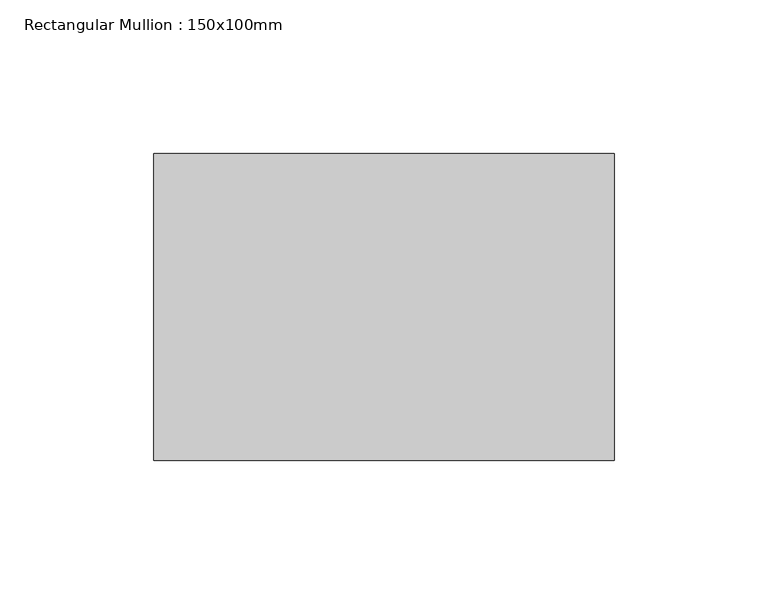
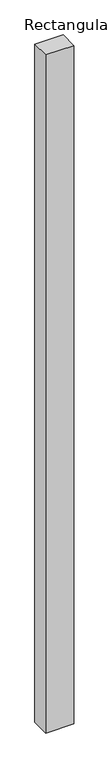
"""IFC4 building model written with IfcOpenShell, lengths in millimetres: member geometry, Rectangular Mullion : 150x100mm."""

import ifcopenshell
import ifcopenshell.guid

model = None  # the IFC model being written
_history = None  # IfcOwnerHistory: only IFC2X3 demands one
_inside = {}  # id of a spatial element -> (the spatial element, [elements in it])
_under = {}  # id of a project, library or spatial element -> (it, [spatial elements below it])
_declared = {}  # id of a project -> (the project, [libraries it declares])
_typed = {}  # id of a type object -> (the type object, [elements of that type])
_made_of = {}  # id of a material, layer set ... -> (it, [elements and type objects made of it])


def new_model(schema):
    """Start an empty IFC model of exactly this schema.

    Asked for "IFC4X3", IfcOpenShell would pick the latest addendum, in which some entities
    have other attributes; the version numbers below select the first issue.
    IFC2X3 requires an IfcOwnerHistory on every rooted entity: one is made here for all.
    """
    global model, _history
    if schema == "IFC4X3":
        model = ifcopenshell.file(schema_version=(4, 3, 0, 0))
    else:
        model = ifcopenshell.file(schema=schema)
    _inside.clear()
    _under.clear()
    _declared.clear()
    _typed.clear()
    _made_of.clear()
    _history = None
    if model.schema == "IFC2X3":
        org = make("IfcOrganization", Name="unknown")
        user = make(
            "IfcPersonAndOrganization",
            ThePerson=make("IfcPerson", FamilyName="unknown"),
            TheOrganization=org,
        )
        app = make(
            "IfcApplication",
            ApplicationDeveloper=org,
            Version="unknown",
            ApplicationFullName="unknown",
            ApplicationIdentifier="unknown",
        )
        _history = make(
            "IfcOwnerHistory",
            OwningUser=user,
            OwningApplication=app,
            ChangeAction="ADDED",
            CreationDate=0,
        )
    return model


def make(cls, **values):
    """One entity of the class cls with the attributes given. An attribute that is None is left unset."""
    return model.create_entity(
        cls, **{name: value for name, value in values.items() if value is not None}
    )


def rooted(cls, **values):
    """An entity with a GlobalId (a new one), such as an element, a storey or a relation."""
    return make(cls, GlobalId=ifcopenshell.guid.new(), OwnerHistory=_history, **values)


def si_unit(unit_type, name, prefix=None):
    """IfcSIUnit, for example si_unit("LENGTHUNIT", "METRE", prefix="MILLI")."""
    return make("IfcSIUnit", UnitType=unit_type, Prefix=prefix, Name=name)


def assignment(units):
    """IfcUnitAssignment: the units of a project."""
    return None if units is None else make("IfcUnitAssignment", Units=units)


def point(xyz):
    """IfcCartesianPoint."""
    return None if xyz is None else make("IfcCartesianPoint", Coordinates=xyz)


def direction(xyz):
    """IfcDirection."""
    return None if xyz is None else make("IfcDirection", DirectionRatios=xyz)


def frame(location, z_axis=None, x_axis=None):
    """IfcAxis2Placement3D, a coordinate frame: its origin and axes. An axis left out is left unset."""
    return make(
        "IfcAxis2Placement3D",
        Location=point(location),
        Axis=direction(z_axis),
        RefDirection=direction(x_axis),
    )


def origin():
    """The frame at (0, 0, 0) with its axes left unset."""
    return frame((0.0, 0.0, 0.0))


def place(relative_to, where):
    """IfcLocalPlacement: puts the frame where relative to a parent placement (None: the world)."""
    return make(
        "IfcLocalPlacement", PlacementRelTo=relative_to, RelativePlacement=where
    )


def context(
    kind, dimensions, precision=None, world=None, true_north=None, identifier=None
):
    """IfcGeometricRepresentationContext, for example the 3D "Model" context."""
    return make(
        "IfcGeometricRepresentationContext",
        ContextIdentifier=identifier,
        ContextType=kind,
        CoordinateSpaceDimension=dimensions,
        Precision=precision,
        WorldCoordinateSystem=world,
        TrueNorth=true_north,
    )


def project(units=None, contexts=None):
    """IfcProject with its units and contexts."""
    return rooted(
        "IfcProject",
        Name="project",
        RepresentationContexts=contexts,
        UnitsInContext=assignment(units),
    )


def spatial(cls, under=None, at=None, **own):
    """A site, building, storey or space (cls), placed at a placement, below another one or the project."""
    s = rooted(cls, ObjectPlacement=at, **own)
    if under is not None:
        _under.setdefault(under.id(), (under, []))[1].append(s)
    return s


def polyline(points):
    """IfcPolyline through the points."""
    return make("IfcPolyline", Points=[point(p) for p in points])


def outline(outer, holes=None, kind="AREA"):
    """IfcArbitraryClosedProfileDef: a profile drawn as a closed curve; with holes, ...WithVoids."""
    if holes is None:
        return make("IfcArbitraryClosedProfileDef", ProfileType=kind, OuterCurve=outer)
    return make(
        "IfcArbitraryProfileDefWithVoids",
        ProfileType=kind,
        OuterCurve=outer,
        InnerCurves=holes,
    )


def extrude(swept, where, along, depth):
    """IfcExtrudedAreaSolid: the profile swept, set in the frame where, extruded along a direction by depth."""
    return make(
        "IfcExtrudedAreaSolid",
        SweptArea=swept,
        Position=where,
        ExtrudedDirection=direction(along),
        Depth=depth,
    )


def shape(context_of_items, identifier, shape_type, items):
    """IfcShapeRepresentation: the items that make up one representation, for example the "Body"."""
    return make(
        "IfcShapeRepresentation",
        ContextOfItems=context_of_items,
        RepresentationIdentifier=identifier,
        RepresentationType=shape_type,
        Items=items,
    )


def source(mapping_origin, context_of_items, identifier, shape_type, items):
    """IfcRepresentationMap: a shape defined once, which mapped items show again and again."""
    return make(
        "IfcRepresentationMap",
        MappingOrigin=mapping_origin,
        MappedRepresentation=shape(context_of_items, identifier, shape_type, items),
    )


def transform(
    local_origin,
    x_axis=None,
    y_axis=None,
    z_axis=None,
    scale=None,
    scale2=None,
    scale3=None,
    uniform=True,
):
    """IfcCartesianTransformationOperator3D, or its non-uniform kind. x_axis, y_axis, z_axis: its Axis1, 2, 3."""
    if uniform:
        return make(
            "IfcCartesianTransformationOperator3D",
            Axis1=direction(x_axis),
            Axis2=direction(y_axis),
            LocalOrigin=point(local_origin),
            Scale=scale,
            Axis3=direction(z_axis),
        )
    return make(
        "IfcCartesianTransformationOperator3DnonUniform",
        Axis1=direction(x_axis),
        Axis2=direction(y_axis),
        LocalOrigin=point(local_origin),
        Scale=scale,
        Axis3=direction(z_axis),
        Scale2=scale2,
        Scale3=scale3,
    )


def mapped(mapping_source, mapping_target):
    """IfcMappedItem: shows the shape of a source again, moved by a transform."""
    return make(
        "IfcMappedItem", MappingSource=mapping_source, MappingTarget=mapping_target
    )


def made_of(thing, what):
    """Note that an element or type object is made of a material, layer set ...; save() writes the relation."""
    if what is not None:
        _made_of.setdefault(what.id(), (what, []))[1].append(thing)
    return thing


def element(
    cls,
    number,
    at=None,
    inside=None,
    cuts=None,
    type_object=None,
    material=None,
    context=None,
    identifier="Body",
    shape_type=None,
    held_by="IfcProductDefinitionShape",
    body=None,
    shapes=None,
    **own,
):
    """One element of the class cls, such as IfcWall. Its Tag is "e" and its number.

    at: its placement. inside: the storey or other place that contains it. cuts: it is an
    opening in that element (IfcRelVoidsElement). A single representation is given by context,
    identifier, shape_type and body (its items); several are given by shapes. held_by: the class
    of the entity that holds the representations. save() writes the other relations.
    """
    e = rooted(cls, Tag="e%d" % number, ObjectPlacement=at, **own)
    if body is not None:
        shapes = [shape(context, identifier, shape_type, body)]
    if shapes is not None:
        e.Representation = make(held_by, Representations=shapes)
    if inside is not None:
        _inside.setdefault(inside.id(), (inside, []))[1].append(e)
    if cuts is not None:
        rooted(
            "IfcRelVoidsElement", RelatingBuildingElement=cuts, RelatedOpeningElement=e
        )
    if type_object is not None:
        _typed.setdefault(type_object.id(), (type_object, []))[1].append(e)
    return made_of(e, material)


def aggregate(whole, parts):
    """IfcRelAggregates: a whole, such as a stair, and the parts it consists of."""
    return rooted("IfcRelAggregates", RelatingObject=whole, RelatedObjects=parts)


def save(model, path):
    """Write the relations noted so far, then the file.

    IfcRelAggregates (storeys below a building ...), IfcRelContainedInSpatialStructure (elements
    in a storey), IfcRelDefinesByType, IfcRelAssociatesMaterial and IfcRelDeclares: one each for
    every whole, place, type object, material and project.
    """
    for whole, parts in _under.values():
        aggregate(whole, parts)
    for where, things in _inside.values():
        rooted(
            "IfcRelContainedInSpatialStructure",
            RelatedElements=things,
            RelatingStructure=where,
        )
    for kind, things in _typed.values():
        rooted("IfcRelDefinesByType", RelatedObjects=things, RelatingType=kind)
    for what, things in _made_of.values():
        rooted("IfcRelAssociatesMaterial", RelatedObjects=things, RelatingMaterial=what)
    for by, libraries in _declared.values():
        rooted("IfcRelDeclares", RelatingContext=by, RelatedDefinitions=libraries)
    model.write(path)


def rectangular_mullion_150x100mm_40b6d95b(model_context):
    return source(origin(), model_context, "Body", "SweptSolid", [
        extrude(outline(polyline([(0.0, 50.0), (0.0, -50.0), (-150.0, -50.0), (-150.0, 50.0), (0.0, 50.0)])), frame((0.0, 0.0, -3825.0), z_axis=(0.0, 0.0, 1.0), x_axis=(1.0, 0.0, 0.0)), (0.0, 0.0, 1.0), 3825.0),
    ])


if __name__ == "__main__":
    model = new_model("IFC4")
    model_context = context("Model", 3, world=origin())
    ifc_project = project(units=[si_unit("LENGTHUNIT", "METRE", prefix="MILLI")], contexts=[model_context])
    site = spatial("IfcSite", under=ifc_project)
    building = spatial("IfcBuilding", under=site)
    placement = place(None, origin())
    rectangular_mullion_150x100mm_shape = rectangular_mullion_150x100mm_40b6d95b(model_context)
    element("IfcMember", 1, ObjectType="Rectangular Mullion : 150x100mm", at=placement, inside=building, context=model_context, shape_type="MappedRepresentation", body=[
        mapped(rectangular_mullion_150x100mm_shape, transform((0.0, 0.0, 0.0), x_axis=(1.0, 0.0, 0.0), y_axis=(0.0, 1.0, 0.0), z_axis=(0.0, 0.0, 1.0))),
    ])
    save(model, "model.ifc")
